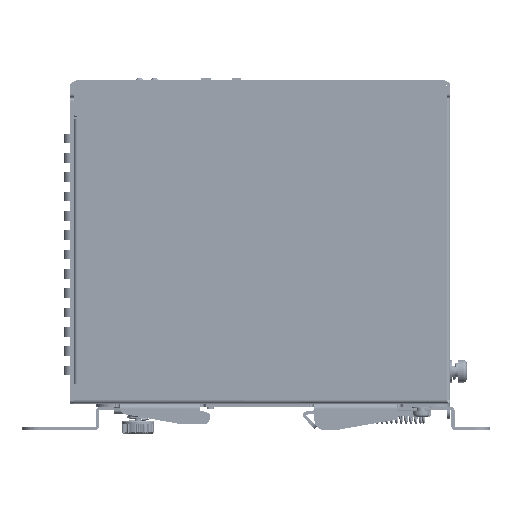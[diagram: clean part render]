
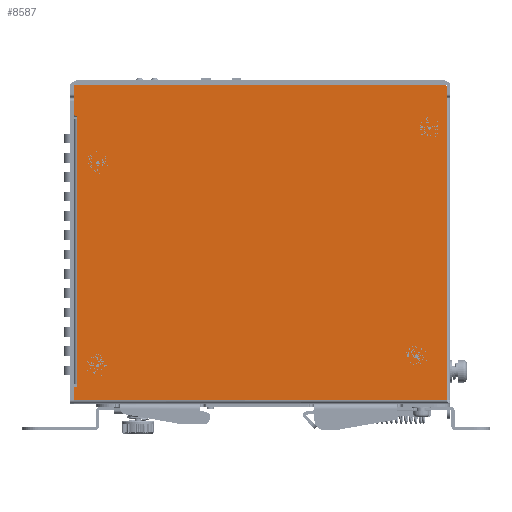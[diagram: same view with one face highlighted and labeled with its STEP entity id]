
A CAD part, left-side view. The second image highlights one B-rep face of the part: STEP entity #8587.
In plain terms, the highlighted planar face has unit normal (-1, 0, 0).
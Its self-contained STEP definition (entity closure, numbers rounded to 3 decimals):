
#108=CARTESIAN_POINT('',(-1.,-52.5,-13.5));
#109=DIRECTION('',(-1.,0.,0.));
#110=DIRECTION('',(0.,1.,0.));
#111=AXIS2_PLACEMENT_3D('',#108,#109,#110);
#113=CARTESIAN_POINT('',(-1.,-52.5,-13.5));
#114=DIRECTION('',(-1.,0.,0.));
#115=DIRECTION('',(0.,-1.,0.));
#116=AXIS2_PLACEMENT_3D('',#113,#114,#115);
#118=CARTESIAN_POINT('',(-1.,50.5,-24.25));
#119=DIRECTION('',(-1.,0.,0.));
#120=DIRECTION('',(0.,1.,0.));
#121=AXIS2_PLACEMENT_3D('',#118,#119,#120);
#123=CARTESIAN_POINT('',(-1.,50.5,-24.25));
#124=DIRECTION('',(-1.,0.,0.));
#125=DIRECTION('',(0.,-1.,0.));
#126=AXIS2_PLACEMENT_3D('',#123,#124,#125);
#128=CARTESIAN_POINT('',(-1.,50.5,-87.25));
#129=DIRECTION('',(-1.,0.,0.));
#130=DIRECTION('',(0.,1.,0.));
#131=AXIS2_PLACEMENT_3D('',#128,#129,#130);
#133=CARTESIAN_POINT('',(-1.,50.5,-87.25));
#134=DIRECTION('',(-1.,0.,0.));
#135=DIRECTION('',(0.,-1.,0.));
#136=AXIS2_PLACEMENT_3D('',#133,#134,#135);
#138=CARTESIAN_POINT('',(-1.,-48.5,-84.25));
#139=DIRECTION('',(-1.,0.,0.));
#140=DIRECTION('',(0.,1.,0.));
#141=AXIS2_PLACEMENT_3D('',#138,#139,#140);
#143=CARTESIAN_POINT('',(-1.,-48.5,-84.25));
#144=DIRECTION('',(-1.,0.,0.));
#145=DIRECTION('',(0.,-1.,0.));
#146=AXIS2_PLACEMENT_3D('',#143,#144,#145);
#148=CARTESIAN_POINT('',(-1.,57.3,-9.2));
#149=DIRECTION('',(-1.,0.,0.));
#150=DIRECTION('',(0.,1.,0.));
#151=AXIS2_PLACEMENT_3D('',#148,#149,#150);
#153=DIRECTION('',(0.,0.,1.));
#154=VECTOR('',#153,5.);
#155=CARTESIAN_POINT('',(-1.,57.8,-9.2));
#156=LINE('',#155,#154);
#157=DIRECTION('',(0.,0.,-1.));
#158=VECTOR('',#157,3.7);
#159=CARTESIAN_POINT('',(-1.,57.8,-0.5));
#160=LINE('',#159,#158);
#161=CARTESIAN_POINT('',(-1.,57.3,-0.5));
#162=DIRECTION('',(-1.,0.,0.));
#163=DIRECTION('',(0.,0.,1.));
#164=AXIS2_PLACEMENT_3D('',#161,#162,#163);
#166=DIRECTION('',(0.,-1.,0.));
#167=VECTOR('',#166,114.6);
#168=CARTESIAN_POINT('',(-1.,57.3,0.));
#169=LINE('',#168,#167);
#170=CARTESIAN_POINT('',(-1.,-57.3,-0.5));
#171=DIRECTION('',(-1.,0.,0.));
#172=DIRECTION('',(0.,-1.,0.));
#173=AXIS2_PLACEMENT_3D('',#170,#171,#172);
#175=DIRECTION('',(0.,0.,-1.));
#176=VECTOR('',#175,3.7);
#177=CARTESIAN_POINT('',(-1.,-57.8,-0.5));
#178=LINE('',#177,#176);
#179=CARTESIAN_POINT('',(-1.,57.5,-94.3));
#180=DIRECTION('',(-1.,0.,0.));
#181=DIRECTION('',(0.,0.,1.));
#182=AXIS2_PLACEMENT_3D('',#179,#180,#181);
#184=DIRECTION('',(0.,-1.,0.));
#185=VECTOR('',#184,0.2);
#186=CARTESIAN_POINT('',(-1.,57.5,-93.8));
#187=LINE('',#186,#185);
#188=CARTESIAN_POINT('',(-1.,57.3,-93.3));
#189=DIRECTION('',(-1.,0.,0.));
#190=DIRECTION('',(0.,0.,-1.));
#191=AXIS2_PLACEMENT_3D('',#188,#189,#190);
#193=DIRECTION('',(0.,0.,-1.));
#194=VECTOR('',#193,0.5);
#195=CARTESIAN_POINT('',(-1.,56.8,-92.8));
#196=LINE('',#195,#194);
#197=DIRECTION('',(0.,0.,-1.));
#198=VECTOR('',#197,0.5);
#199=CARTESIAN_POINT('',(-1.,56.8,-10.2));
#200=LINE('',#199,#198);
#201=CARTESIAN_POINT('',(-1.,57.3,-10.2));
#202=DIRECTION('',(1.,0.,0.));
#203=DIRECTION('',(0.,0.,1.));
#204=AXIS2_PLACEMENT_3D('',#201,#202,#203);
#271=DIRECTION('',(0.,0.,-1.));
#272=VECTOR('',#271,93.6);
#273=CARTESIAN_POINT('',(-1.,-57.8,-4.2));
#274=LINE('',#273,#272);
#4313=DIRECTION('',(0.,1.,0.));
#4314=VECTOR('',#4313,115.8);
#4315=CARTESIAN_POINT('',(-1.,-57.8,-97.8));
#4316=LINE('',#4315,#4314);
#4329=DIRECTION('',(0.,0.,-1.));
#4330=VECTOR('',#4329,3.5);
#4331=CARTESIAN_POINT('',(-1.,58.,-94.3));
#4332=LINE('',#4331,#4330);
#4399=DIRECTION('',(0.,0.,1.));
#4400=VECTOR('',#4399,82.1);
#4401=CARTESIAN_POINT('',(-1.,56.8,-92.8));
#4402=LINE('',#4401,#4400);
#6536=CARTESIAN_POINT('',(-1.,58.,-97.8));
#6538=VERTEX_POINT('',#6536);
#6539=CARTESIAN_POINT('',(-1.,-57.8,-97.8));
#6540=VERTEX_POINT('',#6539);
#6553=CARTESIAN_POINT('',(-1.,-57.8,-4.2));
#6554=VERTEX_POINT('',#6553);
#6583=CARTESIAN_POINT('',(-1.,57.3,0.));
#6584=VERTEX_POINT('',#6583);
#6585=CARTESIAN_POINT('',(-1.,57.8,-0.5));
#6586=VERTEX_POINT('',#6585);
#6591=CARTESIAN_POINT('',(-1.,-57.8,-0.5));
#6592=VERTEX_POINT('',#6591);
#6593=CARTESIAN_POINT('',(-1.,-57.3,0.));
#6594=VERTEX_POINT('',#6593);
#6775=CARTESIAN_POINT('',(-1.,-48.,-84.25));
#6776=CARTESIAN_POINT('',(-1.,-49.,-84.25));
#6777=VERTEX_POINT('',#6775);
#6778=VERTEX_POINT('',#6776);
#6779=CARTESIAN_POINT('',(-1.,51.,-87.25));
#6780=CARTESIAN_POINT('',(-1.,50.,-87.25));
#6781=VERTEX_POINT('',#6779);
#6782=VERTEX_POINT('',#6780);
#6783=CARTESIAN_POINT('',(-1.,51.,-24.25));
#6784=CARTESIAN_POINT('',(-1.,50.,-24.25));
#6785=VERTEX_POINT('',#6783);
#6786=VERTEX_POINT('',#6784);
#8195=CARTESIAN_POINT('',(-1.,-52.,-13.5));
#8196=CARTESIAN_POINT('',(-1.,-53.,-13.5));
#8197=VERTEX_POINT('',#8195);
#8198=VERTEX_POINT('',#8196);
#8327=CARTESIAN_POINT('',(-1.,56.8,-10.2));
#8329=VERTEX_POINT('',#8327);
#8333=CARTESIAN_POINT('',(-1.,56.8,-10.7));
#8334=VERTEX_POINT('',#8333);
#8338=CARTESIAN_POINT('',(-1.,57.3,-93.8));
#8340=VERTEX_POINT('',#8338);
#8341=CARTESIAN_POINT('',(-1.,56.8,-92.8));
#8342=VERTEX_POINT('',#8341);
#8347=CARTESIAN_POINT('',(-1.,56.8,-93.3));
#8348=VERTEX_POINT('',#8347);
#8351=CARTESIAN_POINT('',(-1.,57.8,-4.2));
#8352=VERTEX_POINT('',#8351);
#8357=CARTESIAN_POINT('',(-1.,57.8,-9.2));
#8358=VERTEX_POINT('',#8357);
#8359=CARTESIAN_POINT('',(-1.,57.3,-9.7));
#8360=VERTEX_POINT('',#8359);
#8365=CARTESIAN_POINT('',(-1.,57.5,-93.8));
#8366=VERTEX_POINT('',#8365);
#8367=CARTESIAN_POINT('',(-1.,58.,-94.3));
#8368=VERTEX_POINT('',#8367);
#8524=CARTESIAN_POINT('',(-1.,0.,0.));
#8525=DIRECTION('',(1.,0.,0.));
#8526=DIRECTION('',(0.,-1.,0.));
#8527=AXIS2_PLACEMENT_3D('',#8524,#8525,#8526);
#8528=PLANE('',#8527);
#8530=ORIENTED_EDGE('',*,*,#8529,.F.);
#8532=ORIENTED_EDGE('',*,*,#8531,.T.);
#8534=ORIENTED_EDGE('',*,*,#8533,.F.);
#8536=ORIENTED_EDGE('',*,*,#8535,.F.);
#8538=ORIENTED_EDGE('',*,*,#8537,.T.);
#8540=ORIENTED_EDGE('',*,*,#8539,.F.);
#8542=ORIENTED_EDGE('',*,*,#8541,.T.);
#8544=ORIENTED_EDGE('',*,*,#8543,.T.);
#8546=ORIENTED_EDGE('',*,*,#8545,.T.);
#8548=ORIENTED_EDGE('',*,*,#8547,.F.);
#8550=ORIENTED_EDGE('',*,*,#8549,.F.);
#8552=ORIENTED_EDGE('',*,*,#8551,.T.);
#8554=ORIENTED_EDGE('',*,*,#8553,.T.);
#8556=ORIENTED_EDGE('',*,*,#8555,.F.);
#8558=ORIENTED_EDGE('',*,*,#8557,.T.);
#8560=ORIENTED_EDGE('',*,*,#8559,.F.);
#8562=ORIENTED_EDGE('',*,*,#8561,.F.);
#8563=EDGE_LOOP('',(#8530,#8532,#8534,#8536,#8538,#8540,#8542,#8544,#8546,#8548,
#8550,#8552,#8554,#8556,#8558,#8560,#8562));
#8564=FACE_OUTER_BOUND('',#8563,.F.);
#8566=ORIENTED_EDGE('',*,*,#8565,.T.);
#8568=ORIENTED_EDGE('',*,*,#8567,.T.);
#8569=EDGE_LOOP('',(#8566,#8568));
#8570=FACE_BOUND('',#8569,.F.);
#8572=ORIENTED_EDGE('',*,*,#8571,.T.);
#8574=ORIENTED_EDGE('',*,*,#8573,.T.);
#8575=EDGE_LOOP('',(#8572,#8574));
#8576=FACE_BOUND('',#8575,.F.);
#8577=ORIENTED_EDGE('',*,*,#8504,.T.);
#8578=ORIENTED_EDGE('',*,*,#8518,.T.);
#8579=EDGE_LOOP('',(#8577,#8578));
#8580=FACE_BOUND('',#8579,.F.);
#8582=ORIENTED_EDGE('',*,*,#8581,.T.);
#8584=ORIENTED_EDGE('',*,*,#8583,.T.);
#8585=EDGE_LOOP('',(#8582,#8584));
#8586=FACE_BOUND('',#8585,.F.);
#112=CIRCLE('',#111,0.5);
#117=CIRCLE('',#116,0.5);
#122=CIRCLE('',#121,0.5);
#127=CIRCLE('',#126,0.5);
#132=CIRCLE('',#131,0.5);
#137=CIRCLE('',#136,0.5);
#142=CIRCLE('',#141,0.5);
#147=CIRCLE('',#146,0.5);
#152=CIRCLE('',#151,0.5);
#165=CIRCLE('',#164,0.5);
#174=CIRCLE('',#173,0.5);
#183=CIRCLE('',#182,0.5);
#192=CIRCLE('',#191,0.5);
#205=CIRCLE('',#204,0.5);
#8504=EDGE_CURVE('',#6777,#6778,#142,.T.);
#8518=EDGE_CURVE('',#6778,#6777,#147,.T.);
#8529=EDGE_CURVE('',#8358,#8360,#152,.T.);
#8531=EDGE_CURVE('',#8358,#8352,#156,.T.);
#8533=EDGE_CURVE('',#6586,#8352,#160,.T.);
#8535=EDGE_CURVE('',#6584,#6586,#165,.T.);
#8537=EDGE_CURVE('',#6584,#6594,#169,.T.);
#8539=EDGE_CURVE('',#6592,#6594,#174,.T.);
#8541=EDGE_CURVE('',#6592,#6554,#178,.T.);
#8543=EDGE_CURVE('',#6554,#6540,#274,.T.);
#8545=EDGE_CURVE('',#6540,#6538,#4316,.T.);
#8547=EDGE_CURVE('',#8368,#6538,#4332,.T.);
#8549=EDGE_CURVE('',#8366,#8368,#183,.T.);
#8551=EDGE_CURVE('',#8366,#8340,#187,.T.);
#8553=EDGE_CURVE('',#8340,#8348,#192,.T.);
#8555=EDGE_CURVE('',#8342,#8348,#196,.T.);
#8557=EDGE_CURVE('',#8342,#8334,#4402,.T.);
#8559=EDGE_CURVE('',#8329,#8334,#200,.T.);
#8561=EDGE_CURVE('',#8360,#8329,#205,.T.);
#8565=EDGE_CURVE('',#6785,#6786,#122,.T.);
#8567=EDGE_CURVE('',#6786,#6785,#127,.T.);
#8571=EDGE_CURVE('',#6781,#6782,#132,.T.);
#8573=EDGE_CURVE('',#6782,#6781,#137,.T.);
#8581=EDGE_CURVE('',#8197,#8198,#112,.T.);
#8583=EDGE_CURVE('',#8198,#8197,#117,.T.);
#8587=ADVANCED_FACE('',(#8564,#8570,#8576,#8580,#8586),#8528,.F.);
